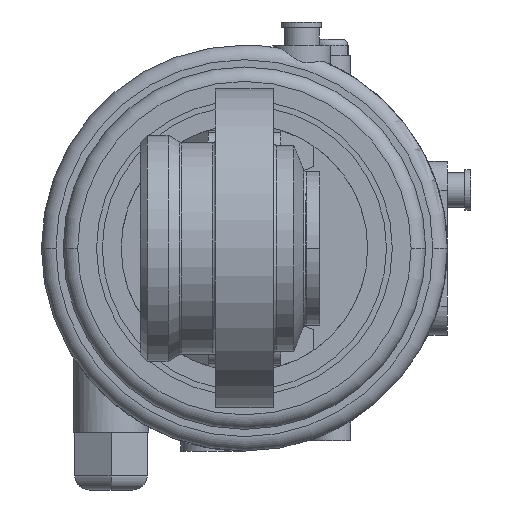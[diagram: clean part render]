
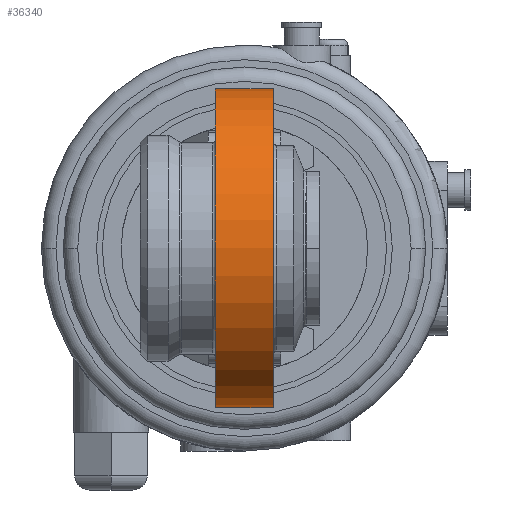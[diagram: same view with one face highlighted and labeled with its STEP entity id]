
A CAD part, front view. The second image highlights one B-rep face of the part: STEP entity #36340.
In plain terms, the highlighted cylindrical face has radius 55 mm (diameter 110 mm), a partial arc.
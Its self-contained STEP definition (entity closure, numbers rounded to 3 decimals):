
#1240=CARTESIAN_POINT('',(67.018,-10.735,0.));
#1250=DIRECTION('',(1.,0.,0.));
#1260=VECTOR('',#1250,1.);
#1270=LINE('',#1240,#1260);
#1280=CARTESIAN_POINT('',(62.018,-10.735,0.));
#1290=VERTEX_POINT('',#1280);
#1300=CARTESIAN_POINT('',(82.018,-10.735,0.));
#1310=VERTEX_POINT('',#1300);
#1320=EDGE_CURVE('',#1290,#1310,#1270,.T.);
#1340=CARTESIAN_POINT('',(62.018,44.265,0.));
#1350=DIRECTION('',(1.,0.,0.));
#1360=DIRECTION('',(0.,-1.,0.));
#1370=AXIS2_PLACEMENT_3D('',#1340,#1350,#1360);
#1380=CIRCLE('',#1370,55.);
#4430=CARTESIAN_POINT('',(82.018,44.265,0.));
#4440=DIRECTION('',(-1.,0.,0.));
#4450=DIRECTION('',(0.,0.,-1.));
#4460=AXIS2_PLACEMENT_3D('',#4430,#4440,#4450);
#4470=CIRCLE('',#4460,55.);
#5760=CARTESIAN_POINT('',(62.018,99.265,0.));
#5770=VERTEX_POINT('',#5760);
#5780=EDGE_CURVE('',#1290,#5770,#1380,.T.);
#8620=CARTESIAN_POINT('',(82.018,99.265,0.));
#8630=VERTEX_POINT('',#8620);
#8660=EDGE_CURVE('',#8630,#1310,#4470,.T.);
#36180=CARTESIAN_POINT('',(67.018,44.265,0.));
#36190=DIRECTION('',(1.,0.,0.));
#36200=DIRECTION('',(0.,-1.,0.));
#36210=AXIS2_PLACEMENT_3D('',#36180,#36190,#36200);
#36220=CYLINDRICAL_SURFACE('',#36210,55.);
#36230=ORIENTED_EDGE('',*,*,#8660,.T.);
#36240=CARTESIAN_POINT('',(67.018,99.265,0.));
#36250=DIRECTION('',(1.,0.,0.));
#36260=VECTOR('',#36250,1.);
#36270=LINE('',#36240,#36260);
#36280=EDGE_CURVE('',#5770,#8630,#36270,.T.);
#36290=ORIENTED_EDGE('',*,*,#36280,.T.);
#36300=ORIENTED_EDGE('',*,*,#5780,.T.);
#36310=ORIENTED_EDGE('',*,*,#1320,.F.);
#36320=EDGE_LOOP('',(#36310,#36300,#36290,#36230));
#36330=FACE_OUTER_BOUND('',#36320,.T.);
#36340=ADVANCED_FACE('',(#36330),#36220,.T.);
